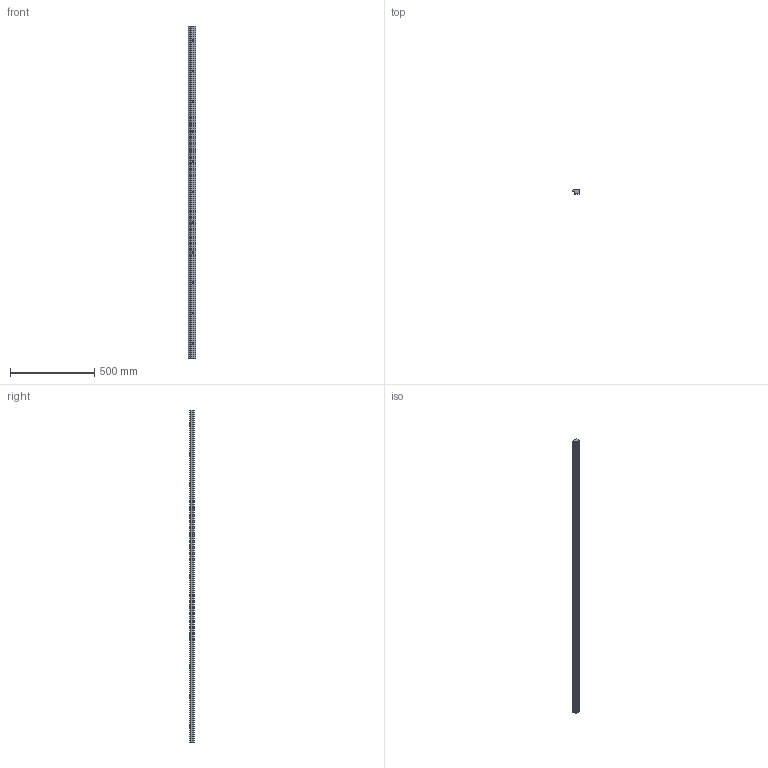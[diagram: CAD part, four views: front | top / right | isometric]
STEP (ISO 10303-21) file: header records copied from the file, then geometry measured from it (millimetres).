
FILE_DESCRIPTION(('STEP AP203'),'1');
FILE_NAME('slide_nlel1976p3.stp','2022-07-04T01:23:57',('TraceParts'),('TraceParts S.A.'),'Spatial InterOp 3D',' ',' ');
FILE_SCHEMA(('CONFIG_CONTROL_DESIGN'));
Length unit declared in the file: millimetre
Products named in the file (1): 1
Bounding box: 43.33 x 24.41 x 1976 mm (x, y, z)
Volume: 1496975.5 mm3; surface area: 282367.6 mm2
Topology: 1 solids, 1 shells, 78 faces, 195 edges, 130 vertices
Faces by surface type: cylinder 54, plane 24
Entity records: 2475 total; most frequent: DIRECTION 461, CARTESIAN_POINT 404, ORIENTED_EDGE 390, EDGE_CURVE 195, AXIS2_PLACEMENT_3D 187, VERTEX_POINT 130, EDGE_LOOP 111, CIRCLE 108
